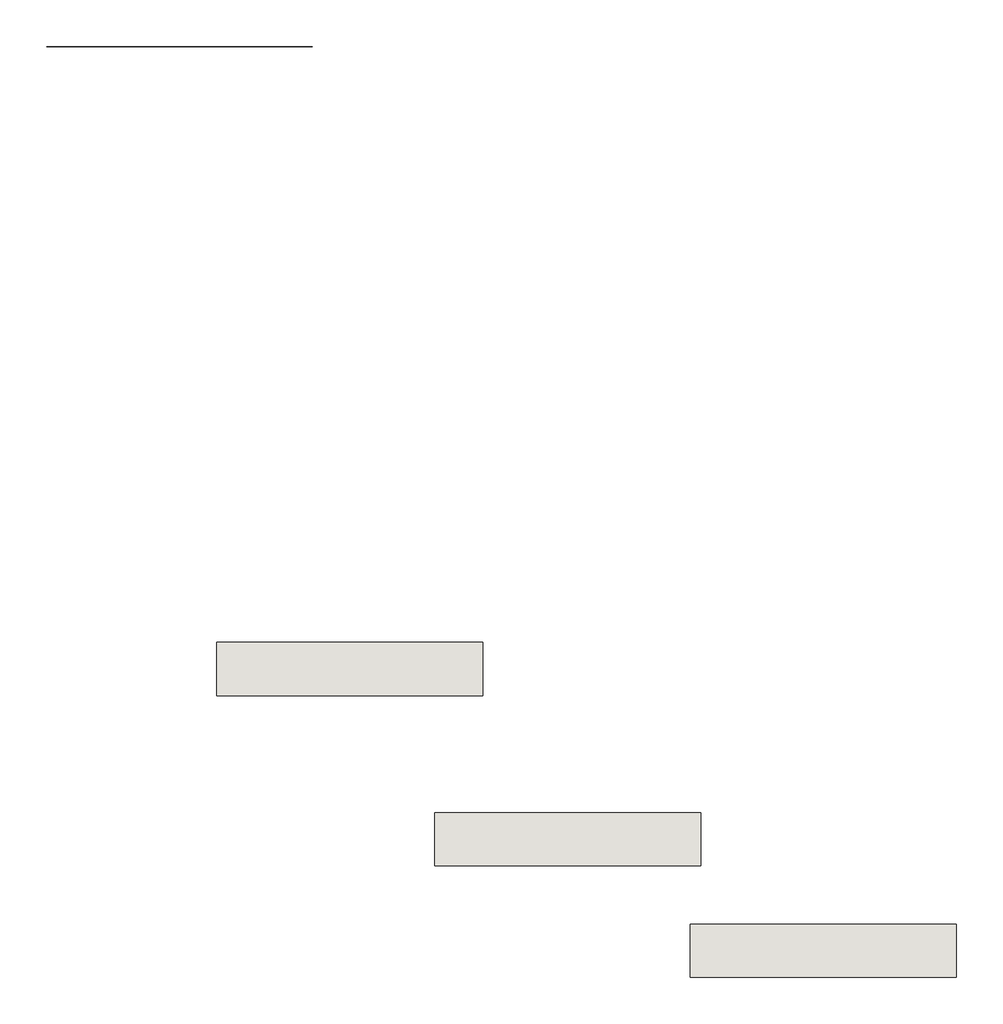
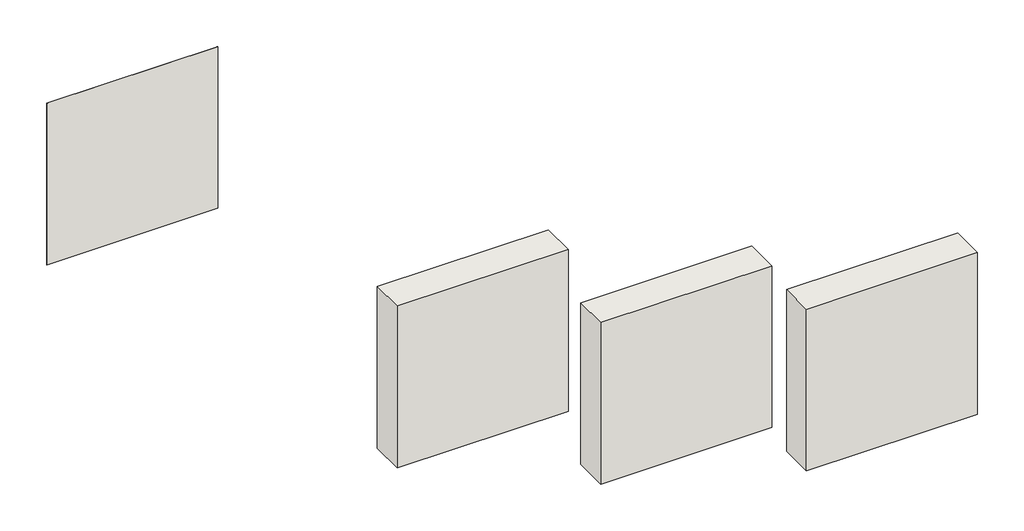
# One storey: 4 walls.
"""IFC4 building model written with IfcOpenShell, lengths in millimetres."""

from ifc_helpers import new_model, si_unit, origin, origin_with_axes, place, context, project, spatial, polyline, outline, extrude, element, save

model = new_model("IFC4")

# Units and contexts
model_context = context("Model", 3, world=origin())
ifc_project = project(units=[si_unit("LENGTHUNIT", "METRE", prefix="MILLI")], contexts=[model_context])

# Site, building, storey
site = spatial("IfcSite", under=ifc_project)
building = spatial("IfcBuilding", under=site)
storey = spatial("IfcBuildingStorey", under=building, Name="标高 1", Elevation=0.0)

# Walls
placement = place(None, origin())
element("IfcWall", 1, ObjectType="常规 - 200mm", at=placement, inside=storey, context=model_context, shape_type="SweptSolid", body=[
    extrude(outline(polyline([(-4113.3613412, 751.0437926), (-5113.3613412, 751.0437926), (-5113.3613412, 951.0437926), (-4113.3613412, 951.0437926), (-4113.3613412, 751.0437926)])), origin_with_axes(), (0.0, 0.0, 1.0), 1000.0),
])
element("IfcWall", 2, ObjectType="常规 - 200mm 2", at=placement, inside=storey, context=model_context, shape_type="SweptSolid", body=[
    extrude(outline(polyline([(-5073.3613412, 1171.0437926), (-6073.3613412, 1171.0437926), (-6073.3613412, 1371.0437926), (-5073.3613412, 1371.0437926), (-5073.3613412, 1171.0437926)])), origin_with_axes(), (0.0, 0.0, 1.0), 1000.0),
])
element("IfcWall", 3, ObjectType="常规 - 200mm 3", at=placement, inside=storey, context=model_context, shape_type="SweptSolid", body=[
    extrude(outline(polyline([(-5893.3613412, 1811.0437926), (-6893.3613412, 1811.0437926), (-6893.3613412, 2011.0437926), (-5893.3613412, 2011.0437926), (-5893.3613412, 1811.0437926)])), origin_with_axes(), (0.0, 0.0, 1.0), 1000.0),
])
element("IfcWall", 4, ObjectType="常规 - 200mm 4", at=placement, inside=storey, context=model_context, shape_type="SweptSolid", body=[
    extrude(outline(polyline([(-6533.3613412, 4250.5437926), (-7533.3613412, 4250.5437926), (-7533.3613412, 4251.5437926), (-6533.3613412, 4251.5437926), (-6533.3613412, 4250.5437926)])), origin_with_axes(), (0.0, 0.0, 1.0), 1000.0),
])

save(model, "model.ifc")
